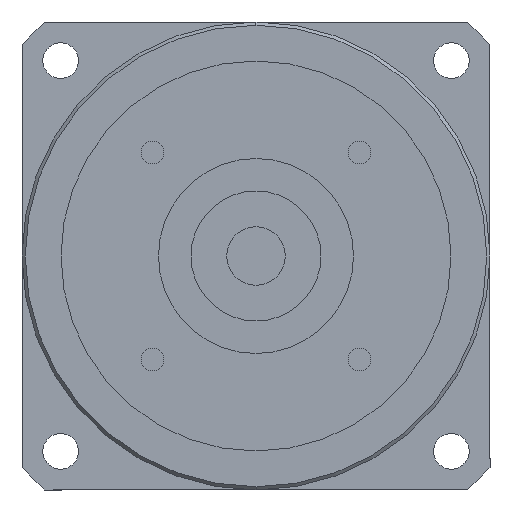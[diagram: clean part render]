
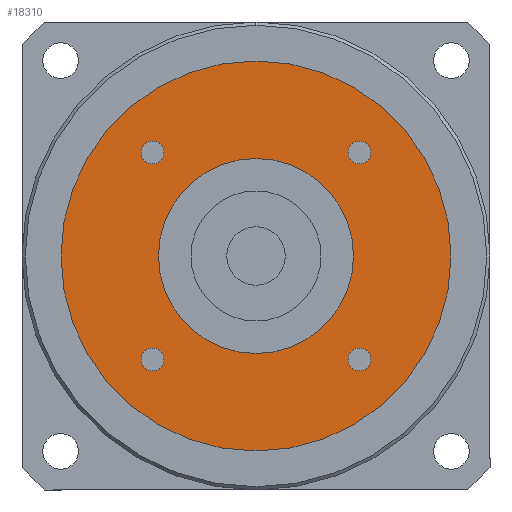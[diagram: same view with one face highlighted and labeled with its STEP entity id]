
A CAD part, left-side view. The second image highlights one B-rep face of the part: STEP entity #18310.
In plain terms, the highlighted planar face has unit normal (-1, 0, 0) as drawn and (0, 0, -1) by its records, which use the part's own axes.
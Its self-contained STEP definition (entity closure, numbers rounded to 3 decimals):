
#15090=CARTESIAN_POINT('',(0.,0.,
-95.));
#15100=DIRECTION('',(0.,0.,1.));
#15110=DIRECTION('',(0.,-1.,0.));
#15120=AXIS2_PLACEMENT_3D('',#15090,#15100,#15110);
#15130=CIRCLE('',#15120,15.);
#15140=CARTESIAN_POINT('',(0.,-15.,-95.));
#15150=VERTEX_POINT('',#15140);
#15160=CARTESIAN_POINT('',(15.,0.,-95.));
#15170=VERTEX_POINT('',#15160);
#15180=EDGE_CURVE('',#15150,#15170,#15130,.T.);
#15410=CARTESIAN_POINT('',(-15.,0.,-95.));
#15420=VERTEX_POINT('',#15410);
#15450=EDGE_CURVE('',#15420,#15150,#15130,.T.);
#15590=CARTESIAN_POINT('',(-14.16,-15.91,-95.));
#15600=VERTEX_POINT('',#15590);
#15780=CARTESIAN_POINT('',(-17.66,-15.91,-95.));
#15790=VERTEX_POINT('',#15780);
#15820=CARTESIAN_POINT('',(-15.91,-15.91,-95.));
#15830=DIRECTION('',(0.,0.,-1.));
#15840=DIRECTION('',(0.,-1.,0.));
#15850=AXIS2_PLACEMENT_3D('',#15820,#15830,#15840);
#15860=CIRCLE('',#15850,1.75);
#15870=CARTESIAN_POINT('',(-15.91,-17.66,-95.));
#15880=VERTEX_POINT('',#15870);
#15890=EDGE_CURVE('',#15880,#15790,#15860,.T.);
#15910=EDGE_CURVE('',#15600,#15880,#15860,.T.);
#17240=CARTESIAN_POINT('',(30.,0.,-95.));
#17250=VERTEX_POINT('',#17240);
#17280=CARTESIAN_POINT('',(0.,0.,
-95.));
#17290=DIRECTION('',(0.,0.,1.));
#17300=DIRECTION('',(0.,-1.,0.));
#17310=AXIS2_PLACEMENT_3D('',#17280,#17290,#17300);
#17320=CIRCLE('',#17310,30.);
#17330=CARTESIAN_POINT('',(0.,-30.,-95.));
#17340=VERTEX_POINT('',#17330);
#17350=EDGE_CURVE('',#17340,#17250,#17320,.T.);
#17370=CARTESIAN_POINT('',(-30.,0.,-95.));
#17380=VERTEX_POINT('',#17370);
#17390=EDGE_CURVE('',#17380,#17340,#17320,.T.);
#17510=CARTESIAN_POINT('',(0.,0.,
-95.));
#17520=DIRECTION('',(0.,0.,1.));
#17530=DIRECTION('',(-1.,0.,0.));
#17540=AXIS2_PLACEMENT_3D('',#17510,#17520,#17530);
#17550=PLANE('',#17540);
#17560=CARTESIAN_POINT('',(15.91,-15.91,-95.));
#17570=DIRECTION('',(0.,0.,-1.));
#17580=DIRECTION('',(1.,0.,0.));
#17590=AXIS2_PLACEMENT_3D('',#17560,#17570,#17580);
#17600=CIRCLE('',#17590,1.75);
#17610=CARTESIAN_POINT('',(17.66,-15.91,-95.));
#17620=VERTEX_POINT('',#17610);
#17630=CARTESIAN_POINT('',(15.91,-17.66,-95.));
#17640=VERTEX_POINT('',#17630);
#17650=EDGE_CURVE('',#17620,#17640,#17600,.T.);
#17660=ORIENTED_EDGE('',*,*,#17650,.F.);
#17670=CARTESIAN_POINT('',(15.91,-14.16,-95.));
#17680=VERTEX_POINT('',#17670);
#17690=EDGE_CURVE('',#17640,#17680,#17600,.T.);
#17700=ORIENTED_EDGE('',*,*,#17690,.F.);
#17710=EDGE_CURVE('',#17680,#17620,#17600,.T.);
#17720=ORIENTED_EDGE('',*,*,#17710,.F.);
#17730=EDGE_LOOP('',(#17720,#17700,#17660));
#17740=FACE_BOUND('',#17730,.T.);
#17750=CARTESIAN_POINT('',(15.91,15.91,-95.));
#17760=DIRECTION('',(0.,0.,-1.));
#17770=DIRECTION('',(0.,1.,0.));
#17780=AXIS2_PLACEMENT_3D('',#17750,#17760,#17770);
#17790=CIRCLE('',#17780,1.75);
#17800=CARTESIAN_POINT('',(15.91,17.66,-95.));
#17810=VERTEX_POINT('',#17800);
#17820=CARTESIAN_POINT('',(17.66,15.91,-95.));
#17830=VERTEX_POINT('',#17820);
#17840=EDGE_CURVE('',#17810,#17830,#17790,.T.);
#17850=ORIENTED_EDGE('',*,*,#17840,.F.);
#17860=CARTESIAN_POINT('',(14.16,15.91,-95.));
#17870=VERTEX_POINT('',#17860);
#17880=EDGE_CURVE('',#17830,#17870,#17790,.T.);
#17890=ORIENTED_EDGE('',*,*,#17880,.F.);
#17900=EDGE_CURVE('',#17870,#17810,#17790,.T.);
#17910=ORIENTED_EDGE('',*,*,#17900,.F.);
#17920=EDGE_LOOP('',(#17910,#17890,#17850));
#17930=FACE_BOUND('',#17920,.T.);
#17940=CARTESIAN_POINT('',(-15.91,15.91,-95.));
#17950=DIRECTION('',(0.,0.,-1.));
#17960=DIRECTION('',(-1.,0.,0.));
#17970=AXIS2_PLACEMENT_3D('',#17940,#17950,#17960);
#17980=CIRCLE('',#17970,1.75);
#17990=CARTESIAN_POINT('',(-17.66,15.91,-95.));
#18000=VERTEX_POINT('',#17990);
#18010=CARTESIAN_POINT('',(-15.91,17.66,-95.));
#18020=VERTEX_POINT('',#18010);
#18030=EDGE_CURVE('',#18000,#18020,#17980,.T.);
#18040=ORIENTED_EDGE('',*,*,#18030,.F.);
#18050=CARTESIAN_POINT('',(-15.91,14.16,-95.));
#18060=VERTEX_POINT('',#18050);
#18070=EDGE_CURVE('',#18020,#18060,#17980,.T.);
#18080=ORIENTED_EDGE('',*,*,#18070,.F.);
#18090=EDGE_CURVE('',#18060,#18000,#17980,.T.);
#18100=ORIENTED_EDGE('',*,*,#18090,.F.);
#18110=EDGE_LOOP('',(#18100,#18080,#18040));
#18120=FACE_BOUND('',#18110,.T.);
#18130=ORIENTED_EDGE('',*,*,#15890,.F.);
#18140=EDGE_CURVE('',#15790,#15600,#15860,.T.);
#18150=ORIENTED_EDGE('',*,*,#18140,.F.);
#18160=ORIENTED_EDGE('',*,*,#15910,.F.);
#18170=EDGE_LOOP('',(#18160,#18150,#18130));
#18180=FACE_BOUND('',#18170,.T.);
#18190=ORIENTED_EDGE('',*,*,#17350,.F.);
#18200=EDGE_CURVE('',#17250,#17380,#17320,.T.);
#18210=ORIENTED_EDGE('',*,*,#18200,.F.);
#18220=ORIENTED_EDGE('',*,*,#17390,.F.);
#18230=EDGE_LOOP('',(#18220,#18210,#18190));
#18240=FACE_OUTER_BOUND('',#18230,.T.);
#18250=EDGE_CURVE('',#15170,#15420,#15130,.T.);
#18260=ORIENTED_EDGE('',*,*,#18250,.T.);
#18270=ORIENTED_EDGE('',*,*,#15180,.T.);
#18280=ORIENTED_EDGE('',*,*,#15450,.T.);
#18290=EDGE_LOOP('',(#18280,#18270,#18260));
#18300=FACE_BOUND('',#18290,.T.);
#18310=ADVANCED_FACE('',(#17740,#17930,#18120,#18180,#18240,#18300),
#17550,.F.);
